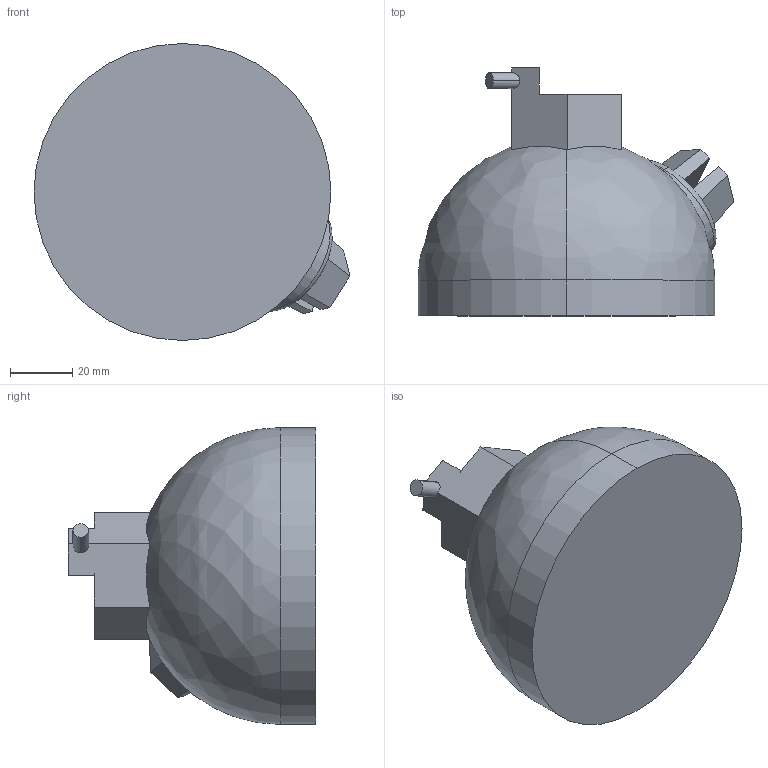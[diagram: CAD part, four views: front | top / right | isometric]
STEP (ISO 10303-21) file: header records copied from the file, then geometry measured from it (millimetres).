
FILE_DESCRIPTION (( 'STEP AP214' ), '1' );
FILE_NAME ('EPSL-80R-12VDC PND MOUNT.STEP', '2015-12-14T22:08:08', ( '' ), ( '' ), 'SwSTEP 2.0', 'SolidWorks 2016', '' );
FILE_SCHEMA (( 'AUTOMOTIVE_DESIGN' ));
Length unit declared in the file: inch
Products named in the file (3): EPSL-80R-12VDC PND MOUNT; Top_PND; Plug
Assembly tree (2 placements, depth 2):
  EPSL-80R-12VDC PND MOUNT
    Top_PND
    Plug
Bounding box: 101.37 x 79.5 x 95.25 mm (x, y, z)
Volume: 323354.8 mm3; surface area: 36668.6 mm2
Topology: 2 solids, 2 shells, 41 faces, 95 edges, 62 vertices
Faces by surface type: plane 27, cylinder 10, bspline 4
Entity records: 1903 total; most frequent: CARTESIAN_POINT 353, ORIENTED_EDGE 190, DIRECTION 187, EDGE_CURVE 95, AXIS2_PLACEMENT_3D 64, VERTEX_POINT 62, VECTOR 59, LINE 59
